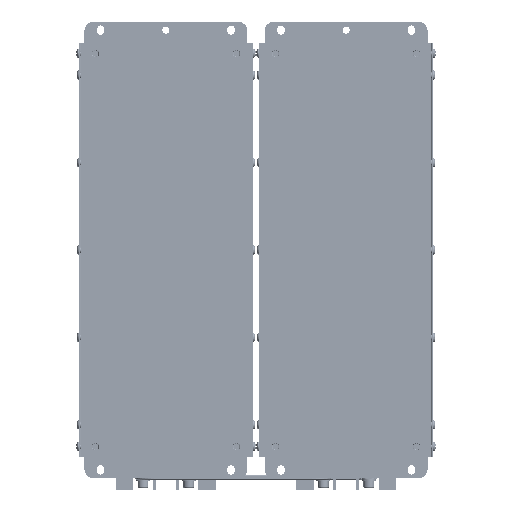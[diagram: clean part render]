
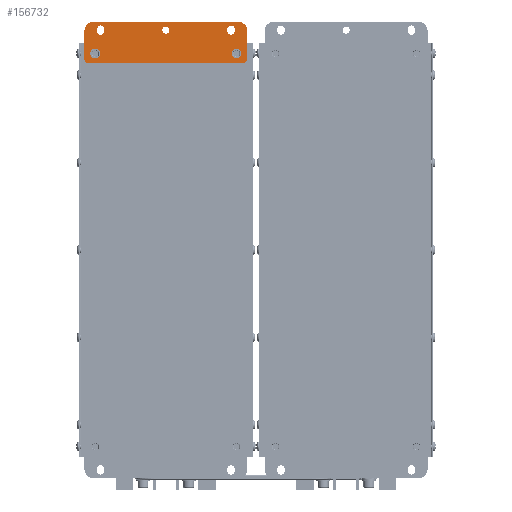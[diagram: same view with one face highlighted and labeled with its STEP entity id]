
A CAD part, front view. The second image highlights one B-rep face of the part: STEP entity #156732.
In plain terms, the highlighted planar face has unit normal (0, -1, 0).
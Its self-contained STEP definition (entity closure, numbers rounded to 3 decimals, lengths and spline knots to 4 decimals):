
#9350=FACE_BOUND('',#54079,.T.);
#9351=FACE_BOUND('',#54080,.T.);
#9352=FACE_BOUND('',#54081,.T.);
#9353=FACE_BOUND('',#54082,.T.);
#9354=FACE_BOUND('',#54083,.T.);
#12033=PLANE('',#165812);
#20851=LINE('',#259926,#33621);
#20852=LINE('',#259930,#33622);
#20853=LINE('',#259934,#33623);
#20854=LINE('',#259937,#33624);
#20855=LINE('',#259946,#33625);
#20856=LINE('',#259949,#33626);
#20857=LINE('',#259954,#33627);
#20858=LINE('',#259957,#33628);
#33621=VECTOR('',#188049,0.3937);
#33622=VECTOR('',#188052,0.3937);
#33623=VECTOR('',#188055,0.3937);
#33624=VECTOR('',#188058,0.3937);
#33625=VECTOR('',#188065,0.3937);
#33626=VECTOR('',#188068,0.3937);
#33627=VECTOR('',#188071,0.3937);
#33628=VECTOR('',#188074,0.3937);
#45280=FACE_OUTER_BOUND('',#54078,.T.);
#54078=EDGE_LOOP('',(#124065,#124066,#124067,#124068,#124069,#124070,#124071,
#124072));
#54079=EDGE_LOOP('',(#124073));
#54080=EDGE_LOOP('',(#124074));
#54081=EDGE_LOOP('',(#124075,#124076,#124077,#124078));
#54082=EDGE_LOOP('',(#124079,#124080,#124081,#124082));
#54083=EDGE_LOOP('',(#124083));
#60282=CIRCLE('',#165810,0.1791);
#60284=CIRCLE('',#165813,0.315);
#60285=CIRCLE('',#165814,0.1575);
#60286=CIRCLE('',#165815,0.1575);
#60287=CIRCLE('',#165816,0.315);
#60288=CIRCLE('',#165817,0.1791);
#60289=CIRCLE('',#165818,0.1299);
#60290=CIRCLE('',#165819,0.1299);
#60291=CIRCLE('',#165820,0.1299);
#60292=CIRCLE('',#165821,0.1299);
#60293=CIRCLE('',#165822,0.1299);
#70197=VERTEX_POINT('',#259916);
#70199=VERTEX_POINT('',#259922);
#70200=VERTEX_POINT('',#259923);
#70201=VERTEX_POINT('',#259925);
#70202=VERTEX_POINT('',#259927);
#70203=VERTEX_POINT('',#259929);
#70204=VERTEX_POINT('',#259931);
#70205=VERTEX_POINT('',#259933);
#70206=VERTEX_POINT('',#259935);
#70207=VERTEX_POINT('',#259938);
#70208=VERTEX_POINT('',#259940);
#70209=VERTEX_POINT('',#259942);
#70210=VERTEX_POINT('',#259943);
#70211=VERTEX_POINT('',#259945);
#70212=VERTEX_POINT('',#259947);
#70213=VERTEX_POINT('',#259950);
#70214=VERTEX_POINT('',#259951);
#70215=VERTEX_POINT('',#259953);
#70216=VERTEX_POINT('',#259955);
#89271=EDGE_CURVE('',#70197,#70197,#60282,.T.);
#89274=EDGE_CURVE('',#70199,#70200,#60284,.T.);
#89275=EDGE_CURVE('',#70201,#70199,#20851,.T.);
#89276=EDGE_CURVE('',#70202,#70201,#60285,.T.);
#89277=EDGE_CURVE('',#70203,#70202,#20852,.T.);
#89278=EDGE_CURVE('',#70204,#70203,#60286,.T.);
#89279=EDGE_CURVE('',#70205,#70204,#20853,.T.);
#89280=EDGE_CURVE('',#70206,#70205,#60287,.T.);
#89281=EDGE_CURVE('',#70200,#70206,#20854,.T.);
#89282=EDGE_CURVE('',#70207,#70207,#60288,.T.);
#89283=EDGE_CURVE('',#70208,#70208,#60289,.T.);
#89284=EDGE_CURVE('',#70209,#70210,#60290,.T.);
#89285=EDGE_CURVE('',#70210,#70211,#20855,.T.);
#89286=EDGE_CURVE('',#70211,#70212,#60291,.T.);
#89287=EDGE_CURVE('',#70212,#70209,#20856,.T.);
#89288=EDGE_CURVE('',#70213,#70214,#60292,.T.);
#89289=EDGE_CURVE('',#70214,#70215,#20857,.T.);
#89290=EDGE_CURVE('',#70215,#70216,#60293,.T.);
#89291=EDGE_CURVE('',#70216,#70213,#20858,.T.);
#124065=ORIENTED_EDGE('',*,*,#89274,.F.);
#124066=ORIENTED_EDGE('',*,*,#89275,.F.);
#124067=ORIENTED_EDGE('',*,*,#89276,.F.);
#124068=ORIENTED_EDGE('',*,*,#89277,.F.);
#124069=ORIENTED_EDGE('',*,*,#89278,.F.);
#124070=ORIENTED_EDGE('',*,*,#89279,.F.);
#124071=ORIENTED_EDGE('',*,*,#89280,.F.);
#124072=ORIENTED_EDGE('',*,*,#89281,.F.);
#124073=ORIENTED_EDGE('',*,*,#89282,.F.);
#124074=ORIENTED_EDGE('',*,*,#89283,.T.);
#124075=ORIENTED_EDGE('',*,*,#89284,.T.);
#124076=ORIENTED_EDGE('',*,*,#89285,.T.);
#124077=ORIENTED_EDGE('',*,*,#89286,.T.);
#124078=ORIENTED_EDGE('',*,*,#89287,.T.);
#124079=ORIENTED_EDGE('',*,*,#89288,.T.);
#124080=ORIENTED_EDGE('',*,*,#89289,.T.);
#124081=ORIENTED_EDGE('',*,*,#89290,.T.);
#124082=ORIENTED_EDGE('',*,*,#89291,.T.);
#124083=ORIENTED_EDGE('',*,*,#89271,.F.);
#156732=ADVANCED_FACE('',(#45280,#9350,#9351,#9352,#9353,#9354),#12033,
 .F.);
#165810=AXIS2_PLACEMENT_3D('',#259917,#188040,#188041);
#165812=AXIS2_PLACEMENT_3D('',#259921,#188045,#188046);
#165813=AXIS2_PLACEMENT_3D('',#259924,#188047,#188048);
#165814=AXIS2_PLACEMENT_3D('',#259928,#188050,#188051);
#165815=AXIS2_PLACEMENT_3D('',#259932,#188053,#188054);
#165816=AXIS2_PLACEMENT_3D('',#259936,#188056,#188057);
#165817=AXIS2_PLACEMENT_3D('',#259939,#188059,#188060);
#165818=AXIS2_PLACEMENT_3D('',#259941,#188061,#188062);
#165819=AXIS2_PLACEMENT_3D('',#259944,#188063,#188064);
#165820=AXIS2_PLACEMENT_3D('',#259948,#188066,#188067);
#165821=AXIS2_PLACEMENT_3D('',#259952,#188069,#188070);
#165822=AXIS2_PLACEMENT_3D('',#259956,#188072,#188073);
#188040=DIRECTION('center_axis',(0.,-1.,0.));
#188041=DIRECTION('ref_axis',(0.,0.,
1.));
#188045=DIRECTION('center_axis',(0.,1.,0.));
#188046=DIRECTION('ref_axis',(-1.,0.,0.));
#188047=DIRECTION('center_axis',(0.,1.,0.));
#188048=DIRECTION('ref_axis',(-1.,0.,0.));
#188049=DIRECTION('',(0.,0.,1.));
#188050=DIRECTION('center_axis',(0.,1.,0.));
#188051=DIRECTION('ref_axis',(0.,0.,
-1.));
#188052=DIRECTION('',(-1.,0.,0.));
#188053=DIRECTION('center_axis',(0.,1.,0.));
#188054=DIRECTION('ref_axis',(1.,0.,0.));
#188055=DIRECTION('',(0.,0.,-1.));
#188056=DIRECTION('center_axis',(0.,1.,0.));
#188057=DIRECTION('ref_axis',(0.,0.,
1.));
#188058=DIRECTION('',(1.,0.,0.));
#188059=DIRECTION('center_axis',(0.,-1.,0.));
#188060=DIRECTION('ref_axis',(0.,0.,
1.));
#188061=DIRECTION('center_axis',(0.,1.,0.));
#188062=DIRECTION('ref_axis',(0.,0.,
1.));
#188063=DIRECTION('center_axis',(0.,1.,0.));
#188064=DIRECTION('ref_axis',(-1.,0.,0.));
#188065=DIRECTION('',(0.,0.,1.));
#188066=DIRECTION('center_axis',(0.,1.,0.));
#188067=DIRECTION('ref_axis',(1.,0.,0.));
#188068=DIRECTION('',(0.,0.,-1.));
#188069=DIRECTION('center_axis',(0.,1.,0.));
#188070=DIRECTION('ref_axis',(-1.,0.,0.));
#188071=DIRECTION('',(0.,0.,1.));
#188072=DIRECTION('center_axis',(0.,1.,0.));
#188073=DIRECTION('ref_axis',(1.,0.,0.));
#188074=DIRECTION('',(0.,0.,-1.));
#259916=CARTESIAN_POINT('',(-11.8572,-1.987,6.6713));
#259917=CARTESIAN_POINT('Origin',(-11.8572,-1.987,6.8505));
#259921=CARTESIAN_POINT('Origin',(-9.2981,-1.987,7.2442));
#259922=CARTESIAN_POINT('',(-12.2509,-1.987,7.6772));
#259923=CARTESIAN_POINT('',(-11.9359,-1.987,7.9922));
#259924=CARTESIAN_POINT('Origin',(-11.9359,-1.987,7.6772));
#259925=CARTESIAN_POINT('',(-12.2509,-1.987,6.6536));
#259926=CARTESIAN_POINT('',(-12.2509,-1.987,6.6536));
#259927=CARTESIAN_POINT('',(-12.0934,-1.987,6.4961));
#259928=CARTESIAN_POINT('Origin',(-12.0934,-1.987,6.6536));
#259929=CARTESIAN_POINT('',(-6.5028,-1.987,6.4961));
#259930=CARTESIAN_POINT('',(-6.5028,-1.987,6.4961));
#259931=CARTESIAN_POINT('',(-6.3454,-1.987,6.6536));
#259932=CARTESIAN_POINT('Origin',(-6.5028,-1.987,6.6536));
#259933=CARTESIAN_POINT('',(-6.3454,-1.987,7.6772));
#259934=CARTESIAN_POINT('',(-6.3454,-1.987,7.6772));
#259935=CARTESIAN_POINT('',(-6.6603,-1.987,7.9922));
#259936=CARTESIAN_POINT('Origin',(-6.6603,-1.987,7.6772));
#259937=CARTESIAN_POINT('',(-11.9359,-1.987,7.9922));
#259938=CARTESIAN_POINT('',(-6.7391,-1.987,6.6713));
#259939=CARTESIAN_POINT('Origin',(-6.7391,-1.987,6.8505));
#259940=CARTESIAN_POINT('',(-9.2981,-1.987,7.567));
#259941=CARTESIAN_POINT('Origin',(-9.2981,-1.987,7.6969));
#259942=CARTESIAN_POINT('',(-11.5304,-1.987,7.6576));
#259943=CARTESIAN_POINT('',(-11.7902,-1.987,7.6576));
#259944=CARTESIAN_POINT('Origin',(-11.6603,-1.987,7.6576));
#259945=CARTESIAN_POINT('',(-11.7902,-1.987,7.7363));
#259946=CARTESIAN_POINT('',(-11.7902,-1.987,7.4509));
#259947=CARTESIAN_POINT('',(-11.5304,-1.987,7.7363));
#259948=CARTESIAN_POINT('Origin',(-11.6603,-1.987,7.7363));
#259949=CARTESIAN_POINT('',(-11.5304,-1.987,7.4902));
#259950=CARTESIAN_POINT('',(-6.806,-1.987,7.6576));
#259951=CARTESIAN_POINT('',(-7.0658,-1.987,7.6576));
#259952=CARTESIAN_POINT('Origin',(-6.9359,-1.987,7.6576));
#259953=CARTESIAN_POINT('',(-7.0658,-1.987,7.7363));
#259954=CARTESIAN_POINT('',(-7.0658,-1.987,7.4509));
#259955=CARTESIAN_POINT('',(-6.806,-1.987,7.7363));
#259956=CARTESIAN_POINT('Origin',(-6.9359,-1.987,7.7363));
#259957=CARTESIAN_POINT('',(-6.806,-1.987,7.4902));
